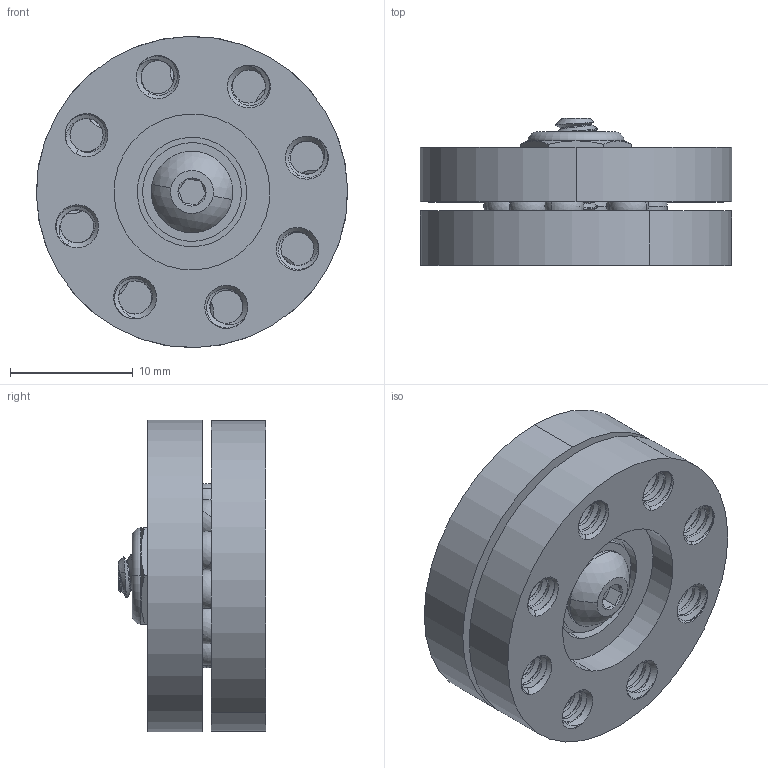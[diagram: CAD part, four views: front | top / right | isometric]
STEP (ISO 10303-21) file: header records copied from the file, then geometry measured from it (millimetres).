
FILE_DESCRIPTION (( 'STEP AP203' ), '1' );
FILE_NAME ('545364 assembly.STEP', '2017-06-30T18:32:55', ( '' ), ( '' ), 'SwSTEP 2.0', 'SolidWorks 2016', '' );
FILE_SCHEMA (( 'CONFIG_CONTROL_DESIGN' ));
Length unit declared in the file: inch
Products named in the file (7): 545364 balls; 545364 part 2; 545364 part 1; 545364 assembly; 92949A146_92949A146; 545364 washer; 91831A007_91831A007
Assembly tree (16 placements, depth 2):
  545364 assembly
    545364 part 1
    545364 part 2
    545364 washer
    92949A146_92949A146
    91831A007_91831A007
    545364 balls  x11
Bounding box: 25.39 x 12 x 25.39 mm (x, y, z)
Volume: 3631.3 mm3; surface area: 4891.7 mm2
Topology: 17 solids, 17 shells, 710 faces, 1930 edges, 1244 vertices
Faces by surface type: cylinder 447, cone 156, plane 42, bspline 35, sphere 24, torus 6
Entity records: 43804 total; most frequent: CARTESIAN_POINT 27995, ORIENTED_EDGE 3710, DIRECTION 2559, EDGE_CURVE 1855, VERTEX_POINT 1191, AXIS2_PLACEMENT_3D 1007, EDGE_LOOP 744, FACE_OUTER_BOUND 690
